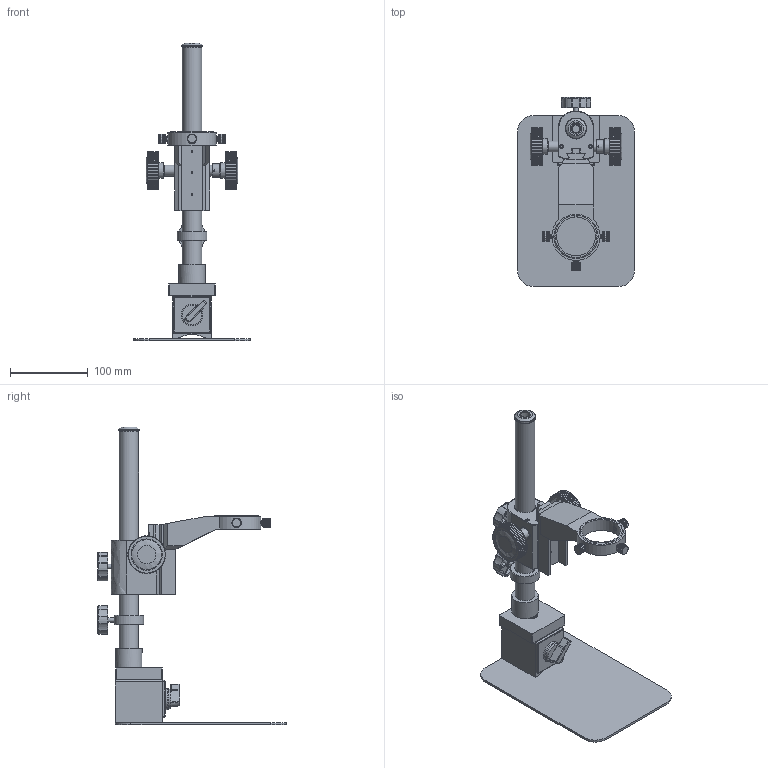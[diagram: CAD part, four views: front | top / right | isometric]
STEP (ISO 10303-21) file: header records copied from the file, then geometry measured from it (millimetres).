
FILE_DESCRIPTION(('STEP AP214'),'1');
FILE_NAME('MG-25-4B.stp','2025-12-24T02:25:17',(' '),(' '),'Spatial InterOp 3D',' ',' ');
FILE_SCHEMA(('AUTOMOTIVE_DESIGN { 1 0 10303 214 1 1 1 1 }'));
Length unit declared in the file: metre
Products named in the file (5): MG-25-4B; Component1; Component2; Component3; Component4
Assembly tree (4 placements, depth 2):
  MG-25-4B
    Component1
    Component2
    Component3
    Component4
Bounding box: 150 x 242.87 x 383.2 mm (x, y, z)
Volume: 704309.6 mm3; surface area: 241973 mm2
Topology: 5 solids, 6 shells, 2606 faces, 6322 edges, 3812 vertices
Faces by surface type: plane 1896, cylinder 485, bspline 142, torus 53, cone 24, sphere 6
Full cylindrical faces by diameter (mm): 1.5 x4, 2.5 x3, 3.9 x2, 4 x2, 4.6 x3, 4.8 x3, 5.5 x3, 5.7 x3, 5.8 x1, 6 x2, 6.5 x1, 6.9 x1, 7 x2, 9.8 x2, 9.9 x2, 10 x3, 11.7 x6, 12.9 x1, 14 x3, 14.9 x2, 15.2 x1, 17.4 x1, 17.6 x1, 18 x2, 20.2 x2, 21 x3, 25 x5, 27 x1, 28 x1, 28.8 x2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
Entity records: 176144 total; most frequent: CARTESIAN_POINT 64980, DIRECTION 12279, ORIENTED_EDGE 12200, STYLED_ITEM 8687, PRESENTATION_STYLE_ASSIGNMENT 8687, COLOUR_RGB 8687, EDGE_CURVE 6100, CURVE_STYLE 6076
